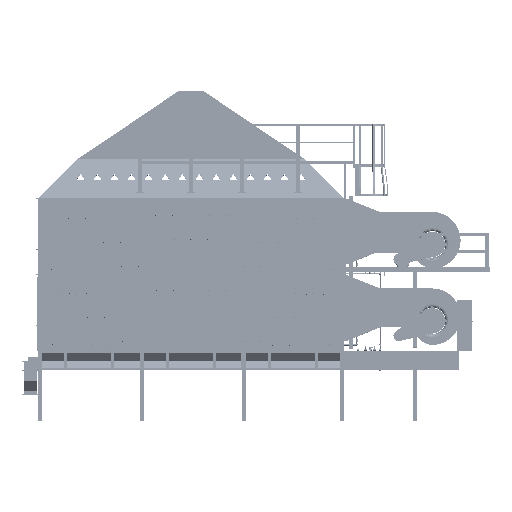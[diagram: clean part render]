
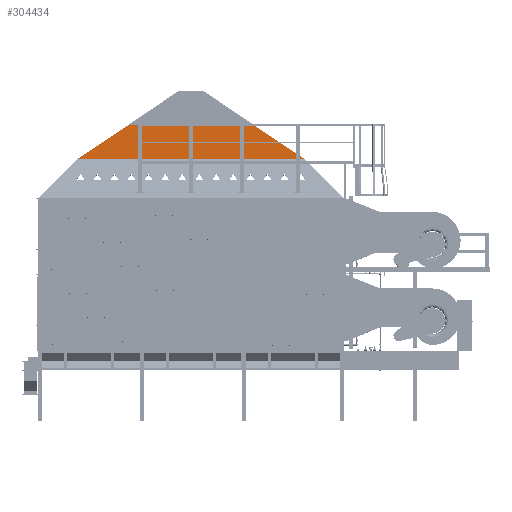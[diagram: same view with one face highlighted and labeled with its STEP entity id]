
A CAD part, top view. The second image highlights one B-rep face of the part: STEP entity #304434.
In plain terms, the highlighted planar face has unit normal (0, 0, 1) as drawn and (0, -1, 0) by its records, which use the part's own axes.
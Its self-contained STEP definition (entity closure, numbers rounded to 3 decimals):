
#45674=FACE_OUTER_BOUND('',#63085,.T.);
#63085=EDGE_LOOP('',(#208882,#208883,#208884,#208885));
#83267=LINE('',#433404,#108472);
#83272=LINE('',#433415,#108477);
#83275=LINE('',#433421,#108480);
#83278=LINE('',#433426,#108483);
#108472=VECTOR('',#352749,0.394);
#108477=VECTOR('',#352764,0.394);
#108480=VECTOR('',#352769,0.394);
#108483=VECTOR('',#352774,0.394);
#133261=VERTEX_POINT('',#433397);
#133264=VERTEX_POINT('',#433402);
#133265=VERTEX_POINT('',#433414);
#133267=VERTEX_POINT('',#433420);
#162519=EDGE_CURVE('',#133261,#133264,#83267,.T.);
#162524=EDGE_CURVE('',#133264,#133265,#83272,.T.);
#162527=EDGE_CURVE('',#133267,#133261,#83275,.T.);
#162530=EDGE_CURVE('',#133267,#133265,#83278,.T.);
#208882=ORIENTED_EDGE('',*,*,#162524,.T.);
#208883=ORIENTED_EDGE('',*,*,#162530,.F.);
#208884=ORIENTED_EDGE('',*,*,#162527,.T.);
#208885=ORIENTED_EDGE('',*,*,#162519,.T.);
#296400=PLANE('',#323449);
#304434=ADVANCED_FACE('',(#45674),#296400,.T.);
#323449=AXIS2_PLACEMENT_3D('',#433425,#352772,#352773);
#352749=DIRECTION('',(-1.,0.,0.));
#352764=DIRECTION('',(-0.833,0.,-0.553));
#352769=DIRECTION('',(-0.833,0.,0.553));
#352772=DIRECTION('center_axis',(0.,-1.,0.));
#352773=DIRECTION('ref_axis',(0.,0.,-1.));
#352774=DIRECTION('',(-1.,0.,0.));
#433397=CARTESIAN_POINT('',(58.625,-6.,68.042));
#433402=CARTESIAN_POINT('',(-58.625,-6.,68.042));
#433404=CARTESIAN_POINT('',(-106.75,-6.,68.042));
#433414=CARTESIAN_POINT('',(-106.75,-6.,36.079));
#433415=CARTESIAN_POINT('',(-8.613,-6.,101.258));
#433420=CARTESIAN_POINT('',(106.75,-6.,36.079));
#433421=CARTESIAN_POINT('',(106.75,-6.,36.079));
#433425=CARTESIAN_POINT('Origin',(106.75,-6.,36.079));
#433426=CARTESIAN_POINT('',(53.375,-6.,36.079));
